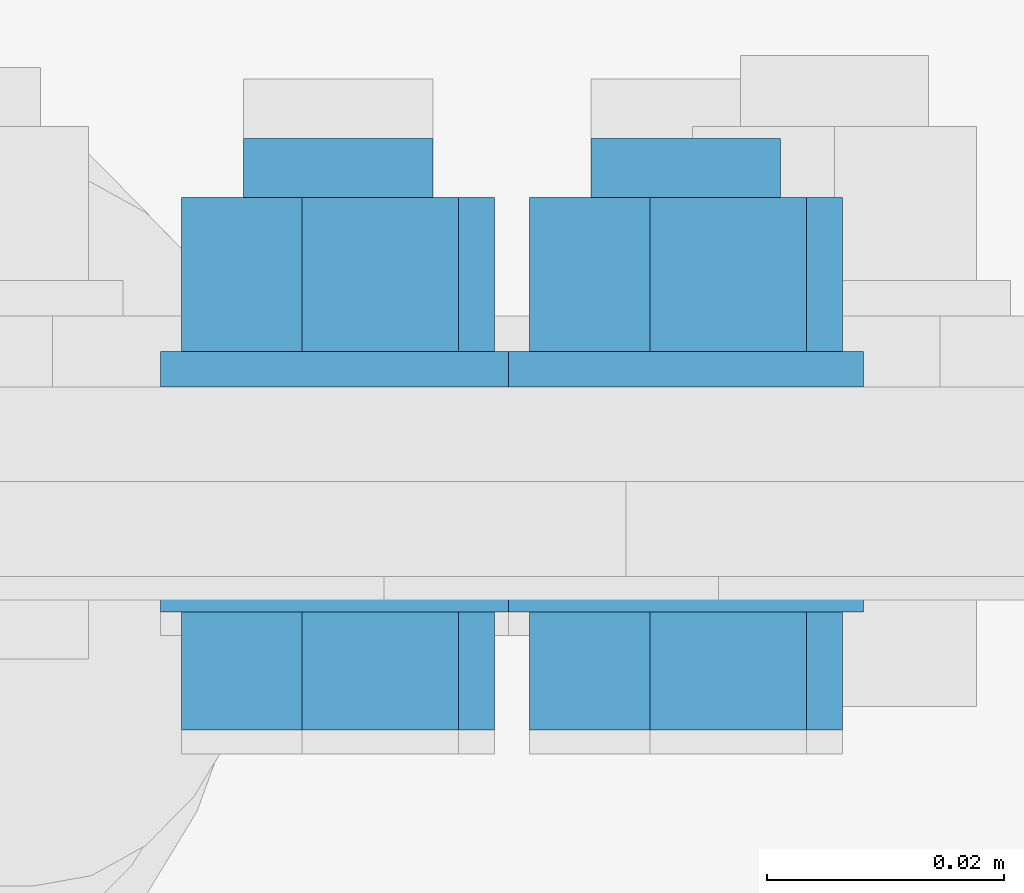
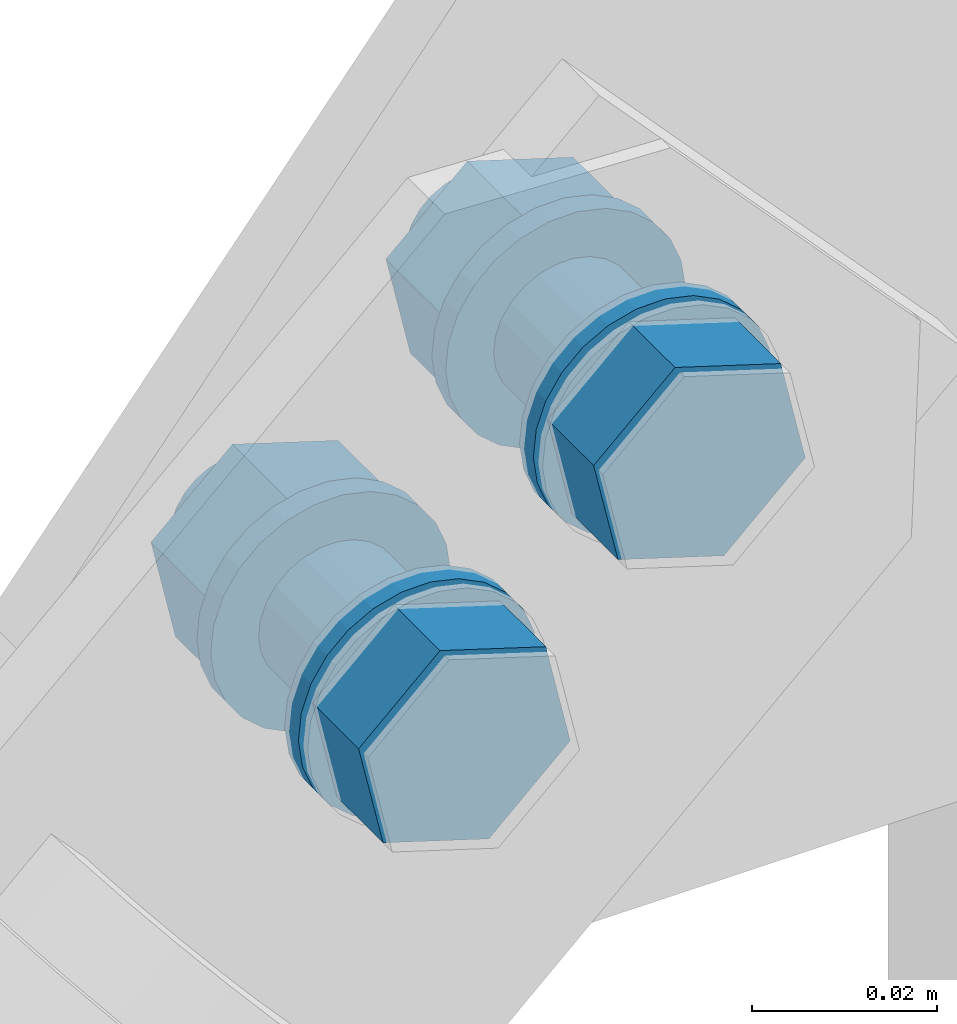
# One storey, part 125 of 132: 1 mechanical fastener, 1 element without a shape of its own.
"""IFC2X3 building model written with IfcOpenShell, lengths in millimetres."""

from ifc_helpers import new_model, si_unit, frame, origin_with_axes, origin_2d_with_axis, place, context, subcontext, project, spatial, polyline, circle, outline, extrude, source, transform, mapped, material, type_object, element, aggregate, save


model = new_model("IFC2X3")

# Units and contexts
model_context = context("Model", 3, precision=1e-05, world=origin_with_axes())
body_context = subcontext(model_context, "Body", "Model", "MODEL_VIEW")
ifc_project = project(units=[si_unit("LENGTHUNIT", "METRE", prefix="MILLI"), si_unit("AREAUNIT", "SQUARE_METRE"), si_unit("VOLUMEUNIT", "CUBIC_METRE"), si_unit("MASSUNIT", "GRAM", prefix="KILO"), si_unit("TIMEUNIT", "SECOND"), si_unit("PLANEANGLEUNIT", "RADIAN"), si_unit("SOLIDANGLEUNIT", "STERADIAN"), si_unit("THERMODYNAMICTEMPERATUREUNIT", "DEGREE_CELSIUS"), si_unit("LUMINOUSINTENSITYUNIT", "LUMEN")], contexts=[model_context])

# Site, building, storey
site_placement = place(None, origin_with_axes())
site = spatial("IfcSite", under=ifc_project, at=site_placement, Name="Budowa", CompositionType="ELEMENT")
building_placement = place(site_placement, origin_with_axes())
building = spatial("IfcBuilding", under=site, at=building_placement, Name="Undefined", CompositionType="ELEMENT")
storey_placement = place(building_placement, origin_with_axes())
storey = spatial("IfcBuildingStorey", under=building, at=storey_placement, Name="Undefined", CompositionType="ELEMENT", Elevation=0.0)

# Assembly, mechanical fastener
assembly_placement = place(storey_placement, origin_with_axes())
assembly = element("IfcElementAssembly", 1, at=assembly_placement, inside=storey, Name="Steel Assembly", AssemblyPlace="NOTDEFINED", PredefinedType="RIGID_FRAME")
ifc_material = material(Name="Undefined")
discrete_accessory_type = type_object("IfcDiscreteAccessoryType", Name="Bolt assembly")
shared_shape = source(origin_with_axes(), body_context, "Body", "SweptSolid", [
    extrude(circle(Radius=9.0, at=origin_2d_with_axis()), frame((0.0, -4.09999999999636, 0.0), z_axis=(0.0, 1.0, 0.0), x_axis=(1.0, 0.0, 0.0)), (0.0, 0.0, 1.0), 8.1),
    extrude(circle(Radius=9.0, at=origin_2d_with_axis()), frame((0.0, -11.9, 0.0), z_axis=(0.0, 1.0, 0.0), x_axis=(1.0, 0.0, 0.0)), (0.0, 0.0, 1.0), 8.0),
    extrude(outline(polyline([(13.85640646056, 0.0), (6.92820323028, 12.0000000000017), (-6.92820323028, 12.0000000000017), (-13.85640646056, 0.0), (-6.92820323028, -12.0000000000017), (6.92820323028, -12.0000000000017), (13.85640646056, 0.0)])), frame((0.0, -25.0, 0.0), z_axis=(0.0, 1.0, 0.0), x_axis=(1.0, 0.0, 0.0)), (0.0, 0.0, 1.0), 10.0),
    extrude(circle(Radius=8.0, at=origin_2d_with_axis()), frame((0.0, -15.0, 0.0), z_axis=(0.0, 1.0, 0.0), x_axis=(1.0, 0.0, 0.0)), (0.0, 0.0, 1.0), 40.0),
    extrude(circle(Radius=15.0, at=origin_2d_with_axis()), frame((0.0, -15.0, 0.0), z_axis=(0.0, 1.0, 0.0), x_axis=(1.0, 0.0, 0.0)), (0.0, 0.0, 1.0), 3.0),
    extrude(circle(Radius=15.0, at=origin_2d_with_axis()), frame((0.0, 4.0, 0.0), z_axis=(0.0, 1.0, 0.0), x_axis=(1.0, 0.0, 0.0)), (0.0, 0.0, 1.0), 3.0),
    extrude(outline(polyline([(13.85640646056, 0.0), (6.92820323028, 12.0000000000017), (-6.92820323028, 12.0000000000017), (-13.85640646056, 0.0), (-6.92820323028, -12.0000000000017), (6.92820323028, -12.0000000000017), (13.85640646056, 0.0)])), frame((0.0, 7.0, 0.0), z_axis=(0.0, 1.0, 0.0), x_axis=(1.0, 0.0, 0.0)), (0.0, 0.0, 1.0), 13.0),
])
mechanical_fastener_placement = place(assembly_placement, frame((14684.3261492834, 23999.9999976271, 12480.2077566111), z_axis=(0.67855182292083, 0.0, -0.734552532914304), x_axis=(-0.734552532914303, 0.0, -0.67855182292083)))
mechanical_fastener = element("IfcMechanicalFastener", 2, at=mechanical_fastener_placement, type_object=discrete_accessory_type, material=ifc_material, Name="Bolt assembly", NominalDiameter=16.0, NominalLength=40.0, context=body_context, shape_type="MappedRepresentation", body=[
    mapped(shared_shape, transform((0.0, 0.0, 0.0))),
    mapped(shared_shape, transform((40.0000000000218, 0.0, -1.81898940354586e-12))),
])
aggregate(assembly, [mechanical_fastener])

save(model, "model.ifc")
